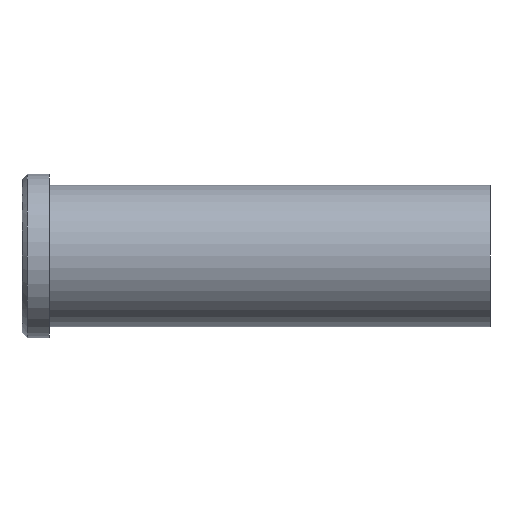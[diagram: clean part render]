
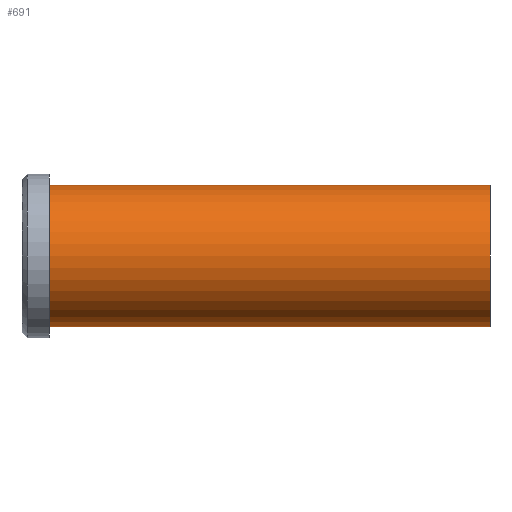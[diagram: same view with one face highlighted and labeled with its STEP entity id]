
A CAD part, front view. The second image highlights one B-rep face of the part: STEP entity #691.
In plain terms, the highlighted cylindrical face has radius 13 mm (diameter 26 mm), a partial arc.
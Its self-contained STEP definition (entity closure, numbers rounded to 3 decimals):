
#501=CARTESIAN_POINT('Vertex',(0.,0.,-13.)) ;
#506=CARTESIAN_POINT('Axis2P3D Location',(0.,0.,0.)) ;
#510=CARTESIAN_POINT('Vertex',(0.,-13.,0.)) ;
#513=CARTESIAN_POINT('Axis2P3D Location',(0.,0.,0.)) ;
#517=CARTESIAN_POINT('Vertex',(0.,0.,13.)) ;
#631=CARTESIAN_POINT('Line Origine',(81.,0.,13.)) ;
#635=CARTESIAN_POINT('Vertex',(81.,0.,13.)) ;
#649=CARTESIAN_POINT('Vertex',(81.,0.,-13.)) ;
#652=CARTESIAN_POINT('Line Origine',(81.,0.,-13.)) ;
#666=CARTESIAN_POINT('Axis2P3D Location',(81.,0.,0.)) ;
#671=CARTESIAN_POINT('Axis2P3D Location',(81.,0.,0.)) ;
#675=CARTESIAN_POINT('Vertex',(81.,-13.,0.)) ;
#678=CARTESIAN_POINT('Axis2P3D Location',(81.,0.,0.)) ;
#507=DIRECTION('Axis2P3D Direction',(1.,0.,-0.)) ;
#514=DIRECTION('Axis2P3D Direction',(1.,0.,-0.)) ;
#632=DIRECTION('Vector Direction',(-1.,0.,0.)) ;
#653=DIRECTION('Vector Direction',(-1.,0.,0.)) ;
#667=DIRECTION('Axis2P3D Direction',(-1.,-0.,-0.)) ;
#668=DIRECTION('Axis2P3D XDirection',(0.,0.,-1.)) ;
#672=DIRECTION('Axis2P3D Direction',(-1.,-0.,-0.)) ;
#679=DIRECTION('Axis2P3D Direction',(-1.,-0.,-0.)) ;
#508=AXIS2_PLACEMENT_3D('Circle Axis2P3D',#506,#507,$) ;
#515=AXIS2_PLACEMENT_3D('Circle Axis2P3D',#513,#514,$) ;
#669=AXIS2_PLACEMENT_3D('Cylinder Axis2P3D',#666,#667,#668) ;
#673=AXIS2_PLACEMENT_3D('Circle Axis2P3D',#671,#672,$) ;
#680=AXIS2_PLACEMENT_3D('Circle Axis2P3D',#678,#679,$) ;
#684=ORIENTED_EDGE('',*,*,#656,.T.) ;
#685=ORIENTED_EDGE('',*,*,#677,.F.) ;
#686=ORIENTED_EDGE('',*,*,#682,.F.) ;
#687=ORIENTED_EDGE('',*,*,#637,.T.) ;
#688=ORIENTED_EDGE('',*,*,#519,.T.) ;
#689=ORIENTED_EDGE('',*,*,#512,.T.) ;
#633=VECTOR('Line Direction',#632,1.) ;
#654=VECTOR('Line Direction',#653,1.) ;
#691=ADVANCED_FACE('353-18X86',(#690),#670,.T.) ;
#509=CIRCLE('generated circle',#508,13.) ;
#516=CIRCLE('generated circle',#515,13.) ;
#674=CIRCLE('generated circle',#673,13.) ;
#681=CIRCLE('generated circle',#680,13.) ;
#670=CYLINDRICAL_SURFACE('generated cylinder',#669,13.) ;
#512=EDGE_CURVE('',#511,#502,#509,.T.) ;
#519=EDGE_CURVE('',#518,#511,#516,.T.) ;
#637=EDGE_CURVE('',#636,#518,#634,.T.) ;
#656=EDGE_CURVE('',#502,#650,#655,.F.) ;
#677=EDGE_CURVE('',#676,#650,#674,.F.) ;
#682=EDGE_CURVE('',#636,#676,#681,.F.) ;
#683=EDGE_LOOP('',(#684,#685,#686,#687,#688,#689)) ;
#690=FACE_OUTER_BOUND('',#683,.T.) ;
#634=LINE('Line',#631,#633) ;
#655=LINE('Line',#652,#654) ;
#502=VERTEX_POINT('',#501) ;
#511=VERTEX_POINT('',#510) ;
#518=VERTEX_POINT('',#517) ;
#636=VERTEX_POINT('',#635) ;
#650=VERTEX_POINT('',#649) ;
#676=VERTEX_POINT('',#675) ;
